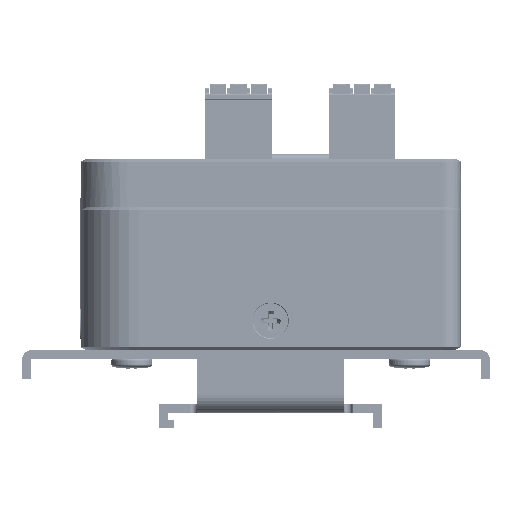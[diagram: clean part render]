
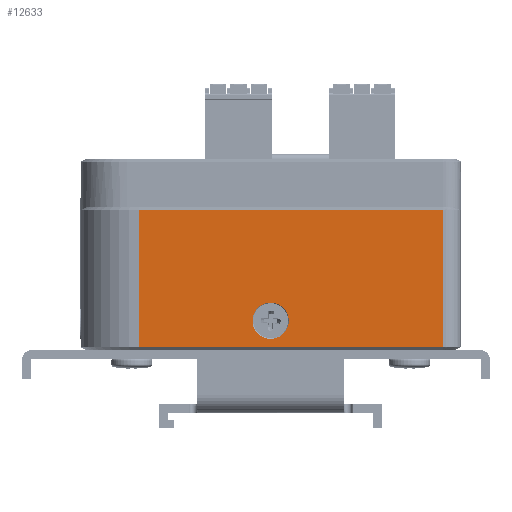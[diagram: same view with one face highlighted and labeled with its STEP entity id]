
A CAD part, left-side view. The second image highlights one B-rep face of the part: STEP entity #12633.
In plain terms, the highlighted planar face has unit normal (-1, 0, 0).
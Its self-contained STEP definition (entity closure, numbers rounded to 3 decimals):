
#720=DIRECTION('',(0.,-1.,0.));
#721=VECTOR('',#720,52.);
#722=CARTESIAN_POINT('',(-60.,21.5,-8.3));
#723=LINE('',#722,#721);
#727=DIRECTION('',(0.,1.,0.));
#728=VECTOR('',#727,52.);
#729=CARTESIAN_POINT('',(-60.,-30.5,
-31.7));
#730=LINE('',#729,#728);
#734=CARTESIAN_POINT('',(-60.,-1.,-27.2));
#735=DIRECTION('',(-1.,0.,0.));
#736=DIRECTION('',(0.,-1.,0.));
#737=AXIS2_PLACEMENT_3D('',#734,#735,#736);
#742=CARTESIAN_POINT('',(-60.,-1.,-27.2));
#743=DIRECTION('',(-1.,0.,0.));
#744=DIRECTION('',(0.,0.,1.));
#745=AXIS2_PLACEMENT_3D('',#742,#743,#744);
#750=CARTESIAN_POINT('',(-60.,-1.,-27.2));
#751=DIRECTION('',(-1.,0.,0.));
#752=DIRECTION('',(0.,1.,0.));
#753=AXIS2_PLACEMENT_3D('',#750,#751,#752);
#758=CARTESIAN_POINT('',(-60.,-1.,-27.2));
#759=DIRECTION('',(-1.,0.,0.));
#760=DIRECTION('',(0.,0.,-1.));
#761=AXIS2_PLACEMENT_3D('',#758,#759,#760);
#773=DIRECTION('',(0.,0.,1.));
#774=VECTOR('',#773,23.4);
#775=CARTESIAN_POINT('',(-60.,-30.5,
-31.7));
#776=LINE('',#775,#774);
#1141=DIRECTION('',(0.,0.,-1.));
#1142=VECTOR('',#1141,23.4);
#1143=CARTESIAN_POINT('',(-60.,21.5,
-8.3));
#1144=LINE('',#1143,#1142);
#10644=CARTESIAN_POINT('',(-60.,-30.5,-8.3));
#10645=VERTEX_POINT('',#10644);
#10716=CARTESIAN_POINT('',(-60.,21.5,
-8.3));
#10717=VERTEX_POINT('',#10716);
#10718=CARTESIAN_POINT('',(-60.,-30.5,
-31.7));
#10719=VERTEX_POINT('',#10718);
#10720=CARTESIAN_POINT('',(-60.,21.5,
-31.7));
#10721=VERTEX_POINT('',#10720);
#10722=CARTESIAN_POINT('',(-60.,-4.1,-27.199));
#10723=CARTESIAN_POINT('',(-60.,-1.,-24.1));
#10724=VERTEX_POINT('',#10722);
#10725=VERTEX_POINT('',#10723);
#10726=CARTESIAN_POINT('',(-60.,2.1,-27.201));
#10727=VERTEX_POINT('',#10726);
#10728=CARTESIAN_POINT('',(-60.,-1.,-30.3));
#10729=VERTEX_POINT('',#10728);
#12609=CARTESIAN_POINT('',(-60.,31.5,-32.2));
#12610=DIRECTION('',(-1.,0.,0.));
#12611=DIRECTION('',(0.,0.,-1.));
#12612=AXIS2_PLACEMENT_3D('',#12609,#12610,#12611);
#12613=PLANE('',#12612);
#12614=ORIENTED_EDGE('',*,*,#12602,.T.);
#12616=ORIENTED_EDGE('',*,*,#12615,.F.);
#12618=ORIENTED_EDGE('',*,*,#12617,.T.);
#12620=ORIENTED_EDGE('',*,*,#12619,.F.);
#12621=EDGE_LOOP('',(#12614,#12616,#12618,#12620));
#12622=FACE_OUTER_BOUND('',#12621,.F.);
#12624=ORIENTED_EDGE('',*,*,#12623,.T.);
#12626=ORIENTED_EDGE('',*,*,#12625,.T.);
#12628=ORIENTED_EDGE('',*,*,#12627,.T.);
#12630=ORIENTED_EDGE('',*,*,#12629,.T.);
#12631=EDGE_LOOP('',(#12624,#12626,#12628,#12630));
#12632=FACE_BOUND('',#12631,.F.);
#738=CIRCLE('',#737,3.1);
#746=CIRCLE('',#745,3.1);
#754=CIRCLE('',#753,3.1);
#762=CIRCLE('',#761,3.1);
#12602=EDGE_CURVE('',#10717,#10645,#723,.T.);
#12615=EDGE_CURVE('',#10719,#10645,#776,.T.);
#12617=EDGE_CURVE('',#10719,#10721,#730,.T.);
#12619=EDGE_CURVE('',#10717,#10721,#1144,.T.);
#12623=EDGE_CURVE('',#10724,#10725,#738,.T.);
#12625=EDGE_CURVE('',#10725,#10727,#746,.T.);
#12627=EDGE_CURVE('',#10727,#10729,#754,.T.);
#12629=EDGE_CURVE('',#10729,#10724,#762,.T.);
#12633=ADVANCED_FACE('',(#12622,#12632),#12613,.T.);
